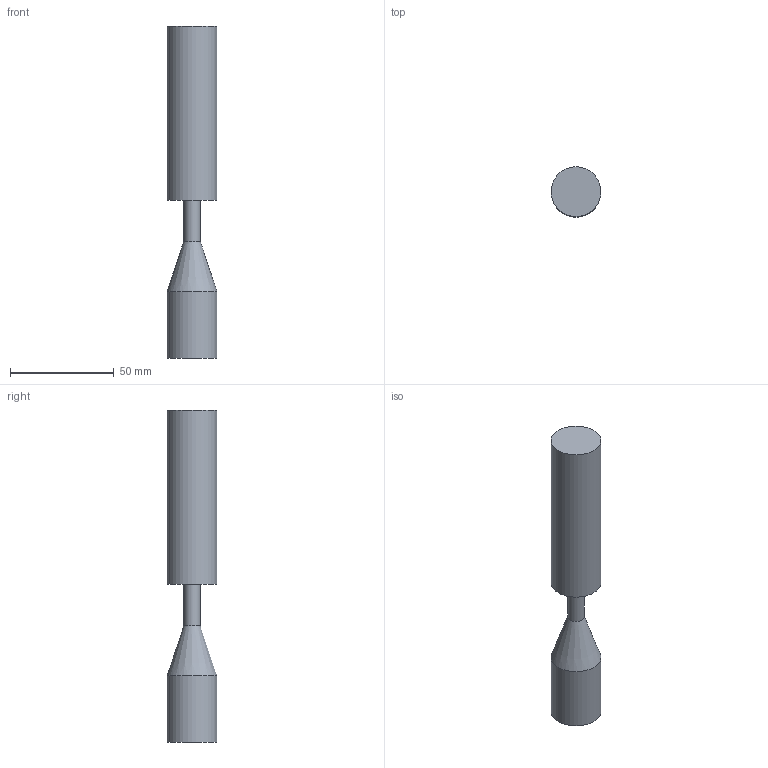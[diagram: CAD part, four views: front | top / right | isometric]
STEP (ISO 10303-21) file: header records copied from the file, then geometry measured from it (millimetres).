
FILE_DESCRIPTION(('FreeCAD Model'),'2;1');
FILE_NAME('Open CASCADE Shape Model','2026-11-03T10:07:26',('FreeCAD'),( 'FreeCAD'),'Open CASCADE STEP processor 7.8','FreeCAD','Unknown');
FILE_SCHEMA(('AUTOMOTIVE_DESIGN { 1 0 10303 214 1 1 1 1 }'));
Length unit declared in the file: millimetre
Products named in the file (1): Open CASCADE STEP translator 7.8 3
Bounding box: 24 x 24 x 160 mm (x, y, z)
Volume: 58710.1 mm3; surface area: 11827.4 mm2
Topology: 1 solids, 1 shells, 7 faces, 10 edges, 6 vertices
Faces by surface type: plane 3, cylinder 3, cone 1
Full cylindrical faces by diameter (mm): 8 x1, 24 x2
Entity records: 164 total; most frequent: DIRECTION 32, CARTESIAN_POINT 24, ORIENTED_EDGE 20, AXIS2_PLACEMENT_3D 14, EDGE_CURVE 10, FACE_BOUND 8, EDGE_LOOP 8, ADVANCED_FACE 7
